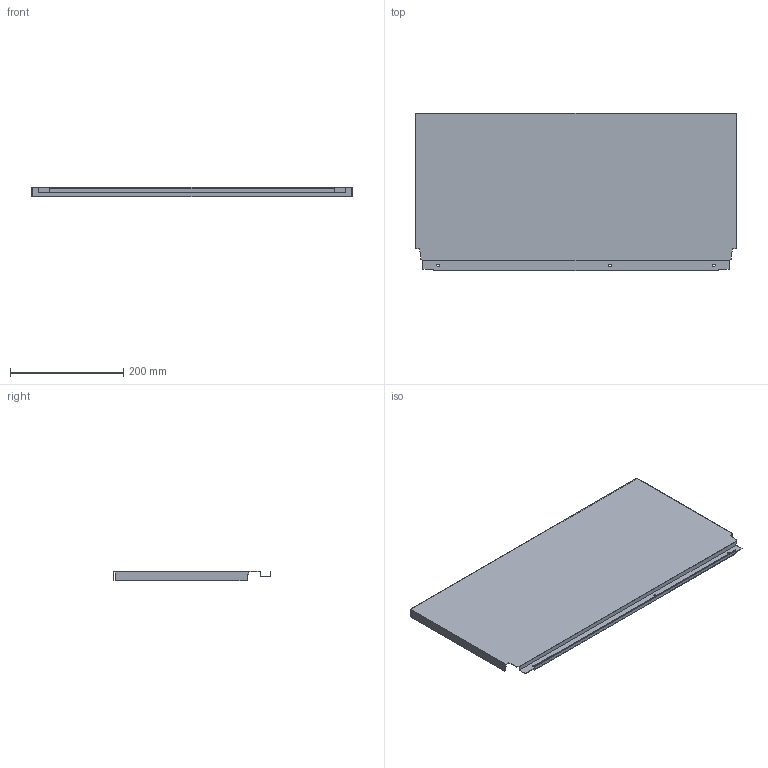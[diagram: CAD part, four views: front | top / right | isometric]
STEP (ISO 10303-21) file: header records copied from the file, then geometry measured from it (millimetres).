
FILE_DESCRIPTION (( 'STEP AP214' ), '1' );
FILE_NAME ('_DWD_XP Stahlrückwand_H278_KAB650_S16.step', '2010-07-08T13:03:47', ( 'grass' ), ( '' ), 'SwSTEP 2.0', 'SolidWorks 2010', '' );
FILE_SCHEMA (( 'AUTOMOTIVE_DESIGN' ));
Length unit declared in the file: millimetre
Products named in the file (1): _DWD_XP Stahlrückwand_H278_KAB650_S16
Bounding box: 567 x 278.57 x 16 mm (x, y, z)
Volume: 158843.3 mm3; surface area: 362583.5 mm2
Topology: 1 solids, 1 shells, 46 faces, 132 edges, 88 vertices
Faces by surface type: plane 40, cylinder 6
Entity records: 1534 total; most frequent: CARTESIAN_POINT 267, ORIENTED_EDGE 264, DIRECTION 238, EDGE_CURVE 132, VECTOR 120, LINE 120, VERTEX_POINT 88, AXIS2_PLACEMENT_3D 59
